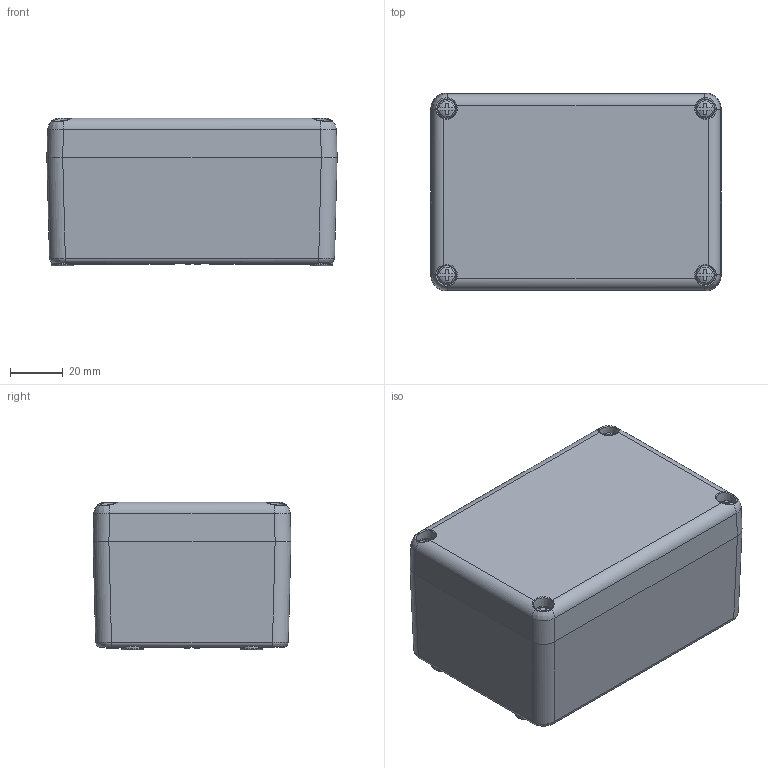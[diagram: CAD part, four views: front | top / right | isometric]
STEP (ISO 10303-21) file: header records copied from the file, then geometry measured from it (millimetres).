
FILE_DESCRIPTION(/* description */ (''),/* implementation_level */ '2;1');
FILE_NAME(/* name */ '4001255.stp',/* time_stamp */ '2017-04-19T00:39:20+02:00',/* author */ (''),/* organization */ (''),/* preprocessor_version */ 'ST-DEVELOPER v16',/* originating_system */ 'SIEMENS PLM Software NX 11.0',/* authorisation */ '');
FILE_SCHEMA (('AUTOMOTIVE_DESIGN { 1 0 10303 214 3 1 1 1 }'));
Length unit declared in the file: millimetre
Products named in the file (1): 4001255_LINKEDEXT_jt
Bounding box: 110 x 75 x 56 mm (x, y, z)
Surface area: 35674 mm2 (no closed solid volume)
Topology: 0 solids, 28 shells, 108 faces, 618 edges, 530 vertices
Faces by surface type: plane 32, bspline 32, cylinder 16, cone 12, sphere 8, torus 8
Entity records: 10232 total; most frequent: CARTESIAN_POINT 5641, ORIENTED_EDGE 758, DIRECTION 704, EDGE_CURVE 602, VERTEX_POINT 526, LINE 326, VECTOR 326, AXIS2_PLACEMENT_3D 189
